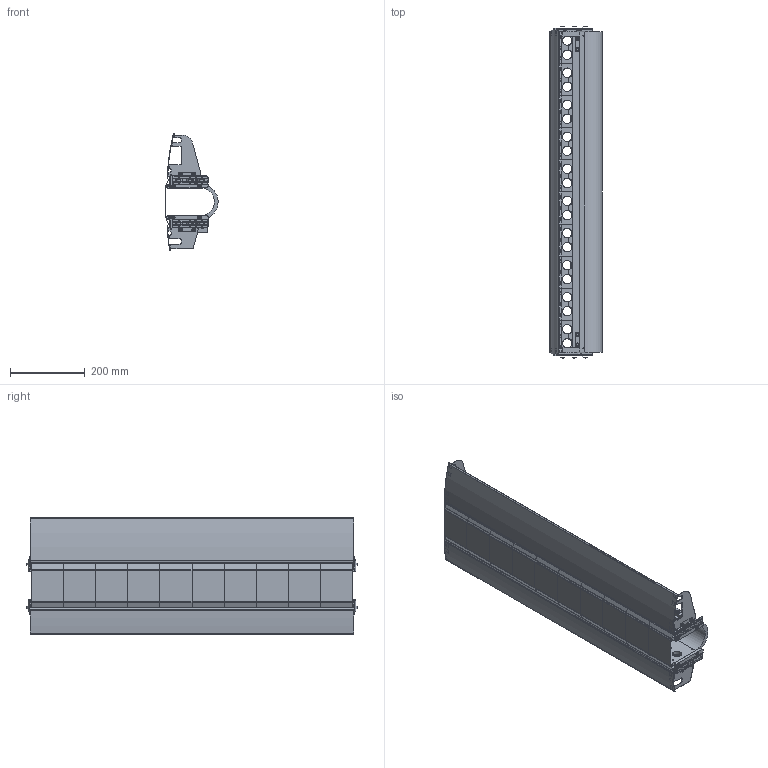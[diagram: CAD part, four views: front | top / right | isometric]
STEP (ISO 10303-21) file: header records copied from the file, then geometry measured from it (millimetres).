
FILE_DESCRIPTION(('CATIA V5-6R2013 STEP','CAx-IF Rec.Pracs.--- Model Styling and Organization---1.4--- 2014-01-23','CAx-IF Rec.Pracs.--- Geometric and Assembly Validation Properties ---4.2---2014-10-09'),'2;1');
FILE_NAME('C:\Users\lojorat\cernbox\CNAO ESE2\STEP files\STEP released\CRNZSE2_0008 ESE2 Setpum assembly - RELEASED 21.07.21.stp','2021-07-21T12:42:09+00:00',('none'),('CERN'),'CATIA Version 5-6 Release 2017 SP6 HF16','CATIA V5 STEP AP214','none');
FILE_SCHEMA(('AUTOMOTIVE_DESIGN { 1 0 10303 214 1 1 1 1 }'));
Length unit declared in the file: millimetre
Products named in the file (64): ST1361008_01; ST1360992_01; ST1360959_01; ST1360982_01; ST1367805_01; ST1436745_01; ST1361063_01; ST1362973_01; ST1363014_01; ST1361068_01; ST1363011_01; ST1363015_01; ST1423621_01; ST1360996_01; ST1367909_01; ST1436755_01; ST1436758_01; ST1423333_01; ST1423214_01; ST1423325_01; ST1423220_01; ST1423373_01; ST1423374_01; ST1423633_01; ST1423634_01; ST1423341_01; ST1423360_01; ST1442536_01; ST1442471_01; ST1442530_01; ST1442542_01; ST1442540_01; ISO 2338_6x20-A2-m6_01; ISO 4762 M4x12-A4_01; ISO 4762 M5x20-A4_01; ISO 4762 M5x25-A4_01; ISO 10642_M4x16_A4_01; ISO 4027_M8x16-A4_01; ISO 7089_4x9-A4_01; ISO 7089_5x10-A4_01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
Assembly tree (202 placements, depth 3):
  ST1361008_01
    ST1360992_01
      ST1360959_01
      ST1360982_01  x2
      ST1367805_01
      ST1436745_01
    ST1361063_01  x2
    ST1362973_01  x20
    ST1363014_01  x10
      ST1361068_01
      ST1363011_01
      ST1363015_01
    ST1423621_01
      ST1360996_01
      ST1367909_01
    ST1436755_01
      ST1436758_01
      ST1367909_01
    ST1423333_01
      ST1423214_01
      ST1423325_01
      ST1423220_01
    ST1423373_01
      ST1423374_01
      ST1423633_01
      ST1423634_01
    ST1423341_01  x2
    ST1423360_01  x2
    ST1442536_01  x2
      ST1442471_01
      ST1442530_01
    ST1442542_01  x2
      ST1442540_01
      ST1442530_01
    ISO 2338_6x20-A2-m6_01
    ISO 4762 M4x12-A4_01  x4
    ISO 4762 M5x20-A4_01  x4
    ISO 4762 M5x25-A4_01  x2
    ISO 10642_M4x16_A4_01  x2
    ISO 4027_M8x16-A4_01  x2
    ISO 7089_4x9-A4_01  x4
    ISO 7089_5x10-A4_01  x6
    Gathered ISO 7089_5x10-A4_01 on RectPattern.1
      ISO 7089_5x10-A4_01
    Gathered ISO 4762 M5x20-A4_01 on RectPattern.1
      ISO 4762 M5x20-A4_01
    Gathered ISO 7089_5x10-A4_01 on RectPattern.11
      ISO 7089_5x10-A4_01
    Gathered ISO 4762 M5x20-A4_01 on RectPattern.11
      ISO 4762 M5x20-A4_01
    Gathered ISO 7089_5x10-A4_01 on RectPattern.12
      ISO 7089_5x10-A4_01
    Gathered ISO 4762 M5x20-A4_01 on RectPattern.12
      ISO 4762 M5x20-A4_01
    Gathered ISO 7089_5x10-A4_01 on RectPattern.13
      ISO 7089_5x10-A4_01
    Gathered ISO 4762 M5x20-A4_01 on RectPattern.13
      ISO 4762 M5x20-A4_01
    Gathered ISO 7089_4x9-A4_01 on RectPattern.2
      ISO 7089_4x9-A4_01
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Bounding box: 140.1 x 890.05 x 313.03 mm (x, y, z)
Volume: 3951254.3 mm3; surface area: 1886558.1 mm2
Topology: 208 solids, 208 shells, 5947 faces, 16000 edges, 10457 vertices
Faces by surface type: plane 3541, cylinder 1894, cone 382, torus 124, sphere 6
Entity records: 46869 total; most frequent: CARTESIAN_POINT 9652, ORIENTED_EDGE 7536, DIRECTION 5995, EDGE_CURVE 3768, VECTOR 2527, LINE 2527, VERTEX_POINT 2471, AXIS2_PLACEMENT_3D 2260
